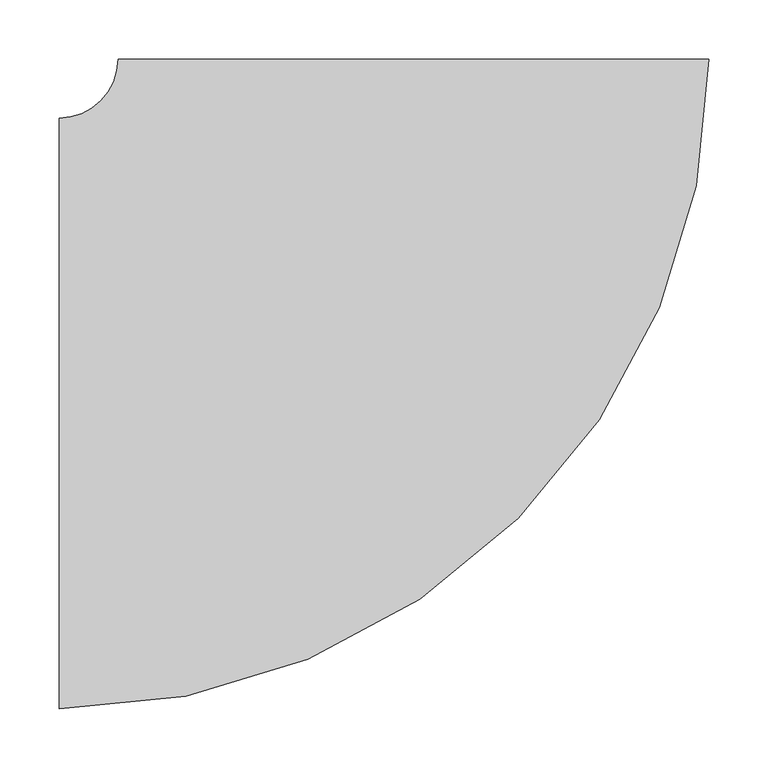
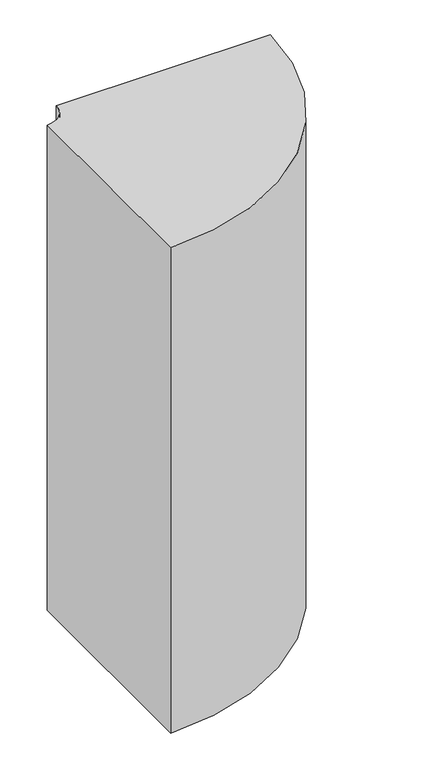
"""IFC4 building model written with IfcOpenShell, lengths in millimetres: duct fitting geometry, ADSK_ОтводВоздуховодов_Прямоугольный1 : Стандарт 2."""

import ifcopenshell
import ifcopenshell.guid

model = None  # the IFC model being written
_history = None  # IfcOwnerHistory: only IFC2X3 demands one
_inside = {}  # id of a spatial element -> (the spatial element, [elements in it])
_under = {}  # id of a project, library or spatial element -> (it, [spatial elements below it])
_declared = {}  # id of a project -> (the project, [libraries it declares])
_typed = {}  # id of a type object -> (the type object, [elements of that type])
_made_of = {}  # id of a material, layer set ... -> (it, [elements and type objects made of it])


def new_model(schema):
    """Start an empty IFC model of exactly this schema.

    Asked for "IFC4X3", IfcOpenShell would pick the latest addendum, in which some entities
    have other attributes; the version numbers below select the first issue.
    IFC2X3 requires an IfcOwnerHistory on every rooted entity: one is made here for all.
    """
    global model, _history
    if schema == "IFC4X3":
        model = ifcopenshell.file(schema_version=(4, 3, 0, 0))
    else:
        model = ifcopenshell.file(schema=schema)
    _inside.clear()
    _under.clear()
    _declared.clear()
    _typed.clear()
    _made_of.clear()
    _history = None
    if model.schema == "IFC2X3":
        org = make("IfcOrganization", Name="unknown")
        user = make(
            "IfcPersonAndOrganization",
            ThePerson=make("IfcPerson", FamilyName="unknown"),
            TheOrganization=org,
        )
        app = make(
            "IfcApplication",
            ApplicationDeveloper=org,
            Version="unknown",
            ApplicationFullName="unknown",
            ApplicationIdentifier="unknown",
        )
        _history = make(
            "IfcOwnerHistory",
            OwningUser=user,
            OwningApplication=app,
            ChangeAction="ADDED",
            CreationDate=0,
        )
    return model


def make(cls, **values):
    """One entity of the class cls with the attributes given. An attribute that is None is left unset."""
    return model.create_entity(
        cls, **{name: value for name, value in values.items() if value is not None}
    )


def rooted(cls, **values):
    """An entity with a GlobalId (a new one), such as an element, a storey or a relation."""
    return make(cls, GlobalId=ifcopenshell.guid.new(), OwnerHistory=_history, **values)


def si_unit(unit_type, name, prefix=None):
    """IfcSIUnit, for example si_unit("LENGTHUNIT", "METRE", prefix="MILLI")."""
    return make("IfcSIUnit", UnitType=unit_type, Prefix=prefix, Name=name)


def assignment(units):
    """IfcUnitAssignment: the units of a project."""
    return None if units is None else make("IfcUnitAssignment", Units=units)


def point(xyz):
    """IfcCartesianPoint."""
    return None if xyz is None else make("IfcCartesianPoint", Coordinates=xyz)


def direction(xyz):
    """IfcDirection."""
    return None if xyz is None else make("IfcDirection", DirectionRatios=xyz)


def frame(location, z_axis=None, x_axis=None):
    """IfcAxis2Placement3D, a coordinate frame: its origin and axes. An axis left out is left unset."""
    return make(
        "IfcAxis2Placement3D",
        Location=point(location),
        Axis=direction(z_axis),
        RefDirection=direction(x_axis),
    )


def frame_2d(location, x_axis=None):
    """IfcAxis2Placement2D, a coordinate frame in the plane: its origin and x axis."""
    return make(
        "IfcAxis2Placement2D", Location=point(location), RefDirection=direction(x_axis)
    )


def origin():
    """The frame at (0, 0, 0) with its axes left unset."""
    return frame((0.0, 0.0, 0.0))


def place(relative_to, where):
    """IfcLocalPlacement: puts the frame where relative to a parent placement (None: the world)."""
    return make(
        "IfcLocalPlacement", PlacementRelTo=relative_to, RelativePlacement=where
    )


def context(
    kind, dimensions, precision=None, world=None, true_north=None, identifier=None
):
    """IfcGeometricRepresentationContext, for example the 3D "Model" context."""
    return make(
        "IfcGeometricRepresentationContext",
        ContextIdentifier=identifier,
        ContextType=kind,
        CoordinateSpaceDimension=dimensions,
        Precision=precision,
        WorldCoordinateSystem=world,
        TrueNorth=true_north,
    )


def project(units=None, contexts=None):
    """IfcProject with its units and contexts."""
    return rooted(
        "IfcProject",
        Name="project",
        RepresentationContexts=contexts,
        UnitsInContext=assignment(units),
    )


def spatial(cls, under=None, at=None, **own):
    """A site, building, storey or space (cls), placed at a placement, below another one or the project."""
    s = rooted(cls, ObjectPlacement=at, **own)
    if under is not None:
        _under.setdefault(under.id(), (under, []))[1].append(s)
    return s


def polyline(points):
    """IfcPolyline through the points."""
    return make("IfcPolyline", Points=[point(p) for p in points])


def circle_curve(where, radius):
    """IfcCircle in the frame where."""
    return make("IfcCircle", Position=where, Radius=radius)


def trimmed(basis, trim1, trim2, sense, master):
    """IfcTrimmedCurve: the piece of a basis curve between two trims."""
    return make(
        "IfcTrimmedCurve",
        BasisCurve=basis,
        Trim1=trim1,
        Trim2=trim2,
        SenseAgreement=sense,
        MasterRepresentation=master,
    )


def segment(curve, same_sense, transition):
    """IfcCompositeCurveSegment."""
    return make(
        "IfcCompositeCurveSegment",
        Transition=transition,
        SameSense=same_sense,
        ParentCurve=curve,
    )


def composite_curve(segments, self_intersect=None):
    """IfcCompositeCurve: segments joined end to end."""
    return make("IfcCompositeCurve", Segments=segments, SelfIntersect=self_intersect)


def outline(outer, holes=None, kind="AREA"):
    """IfcArbitraryClosedProfileDef: a profile drawn as a closed curve; with holes, ...WithVoids."""
    if holes is None:
        return make("IfcArbitraryClosedProfileDef", ProfileType=kind, OuterCurve=outer)
    return make(
        "IfcArbitraryProfileDefWithVoids",
        ProfileType=kind,
        OuterCurve=outer,
        InnerCurves=holes,
    )


def extrude(swept, where, along, depth):
    """IfcExtrudedAreaSolid: the profile swept, set in the frame where, extruded along a direction by depth."""
    return make(
        "IfcExtrudedAreaSolid",
        SweptArea=swept,
        Position=where,
        ExtrudedDirection=direction(along),
        Depth=depth,
    )


def shape(context_of_items, identifier, shape_type, items):
    """IfcShapeRepresentation: the items that make up one representation, for example the "Body"."""
    return make(
        "IfcShapeRepresentation",
        ContextOfItems=context_of_items,
        RepresentationIdentifier=identifier,
        RepresentationType=shape_type,
        Items=items,
    )


def source(mapping_origin, context_of_items, identifier, shape_type, items):
    """IfcRepresentationMap: a shape defined once, which mapped items show again and again."""
    return make(
        "IfcRepresentationMap",
        MappingOrigin=mapping_origin,
        MappedRepresentation=shape(context_of_items, identifier, shape_type, items),
    )


def transform(
    local_origin,
    x_axis=None,
    y_axis=None,
    z_axis=None,
    scale=None,
    scale2=None,
    scale3=None,
    uniform=True,
):
    """IfcCartesianTransformationOperator3D, or its non-uniform kind. x_axis, y_axis, z_axis: its Axis1, 2, 3."""
    if uniform:
        return make(
            "IfcCartesianTransformationOperator3D",
            Axis1=direction(x_axis),
            Axis2=direction(y_axis),
            LocalOrigin=point(local_origin),
            Scale=scale,
            Axis3=direction(z_axis),
        )
    return make(
        "IfcCartesianTransformationOperator3DnonUniform",
        Axis1=direction(x_axis),
        Axis2=direction(y_axis),
        LocalOrigin=point(local_origin),
        Scale=scale,
        Axis3=direction(z_axis),
        Scale2=scale2,
        Scale3=scale3,
    )


def mapped(mapping_source, mapping_target):
    """IfcMappedItem: shows the shape of a source again, moved by a transform."""
    return make(
        "IfcMappedItem", MappingSource=mapping_source, MappingTarget=mapping_target
    )


def made_of(thing, what):
    """Note that an element or type object is made of a material, layer set ...; save() writes the relation."""
    if what is not None:
        _made_of.setdefault(what.id(), (what, []))[1].append(thing)
    return thing


def element(
    cls,
    number,
    at=None,
    inside=None,
    cuts=None,
    type_object=None,
    material=None,
    context=None,
    identifier="Body",
    shape_type=None,
    held_by="IfcProductDefinitionShape",
    body=None,
    shapes=None,
    **own,
):
    """One element of the class cls, such as IfcWall. Its Tag is "e" and its number.

    at: its placement. inside: the storey or other place that contains it. cuts: it is an
    opening in that element (IfcRelVoidsElement). A single representation is given by context,
    identifier, shape_type and body (its items); several are given by shapes. held_by: the class
    of the entity that holds the representations. save() writes the other relations.
    """
    e = rooted(cls, Tag="e%d" % number, ObjectPlacement=at, **own)
    if body is not None:
        shapes = [shape(context, identifier, shape_type, body)]
    if shapes is not None:
        e.Representation = make(held_by, Representations=shapes)
    if inside is not None:
        _inside.setdefault(inside.id(), (inside, []))[1].append(e)
    if cuts is not None:
        rooted(
            "IfcRelVoidsElement", RelatingBuildingElement=cuts, RelatedOpeningElement=e
        )
    if type_object is not None:
        _typed.setdefault(type_object.id(), (type_object, []))[1].append(e)
    return made_of(e, material)


def aggregate(whole, parts):
    """IfcRelAggregates: a whole, such as a stair, and the parts it consists of."""
    return rooted("IfcRelAggregates", RelatingObject=whole, RelatedObjects=parts)


def save(model, path):
    """Write the relations noted so far, then the file.

    IfcRelAggregates (storeys below a building ...), IfcRelContainedInSpatialStructure (elements
    in a storey), IfcRelDefinesByType, IfcRelAssociatesMaterial and IfcRelDeclares: one each for
    every whole, place, type object, material and project.
    """
    for whole, parts in _under.values():
        aggregate(whole, parts)
    for where, things in _inside.values():
        rooted(
            "IfcRelContainedInSpatialStructure",
            RelatedElements=things,
            RelatingStructure=where,
        )
    for kind, things in _typed.values():
        rooted("IfcRelDefinesByType", RelatedObjects=things, RelatingType=kind)
    for what, things in _made_of.values():
        rooted("IfcRelAssociatesMaterial", RelatedObjects=things, RelatingMaterial=what)
    for by, libraries in _declared.values():
        rooted("IfcRelDeclares", RelatingContext=by, RelatedDefinitions=libraries)
    model.write(path)


def duct_fitting_0ad4c2ae(model_context):
    return source(origin(), model_context, "Body", "SweptSolid", [
        extrude(outline(composite_curve([segment(trimmed(circle_curve(frame_2d((-300.0, 300.0)), 550.0), [point((250.0, 300.0))], [point((-300.0, -250.0))], False, "CARTESIAN"), True, "CONTINUOUS"), segment(polyline([(-300.0, -250.0), (-300.0, 250.0)]), True, "CONTINUOUS"), segment(trimmed(circle_curve(frame_2d((-300.0, 300.0)), 50.0), [point((-300.0, 250.0))], [point((-250.0, 300.0))], True, "CARTESIAN"), True, "CONTINUOUS"), segment(polyline([(-250.0, 300.0), (250.0, 300.0)]), True, "CONTINUOUS")], self_intersect=False)), frame((0.0, 0.0, -600.0), z_axis=(0.0, 0.0, 1.0), x_axis=(1.0, 0.0, 0.0)), (0.0, 0.0, 1.0), 1200.0),
    ])


if __name__ == "__main__":
    model = new_model("IFC4")
    model_context = context("Model", 3, world=origin())
    ifc_project = project(units=[si_unit("LENGTHUNIT", "METRE", prefix="MILLI")], contexts=[model_context])
    site = spatial("IfcSite", under=ifc_project)
    building = spatial("IfcBuilding", under=site)
    placement = place(None, origin())
    duct_fitting_shape = duct_fitting_0ad4c2ae(model_context)
    element("IfcDuctFitting", 1, ObjectType="ADSK_ОтводВоздуховодов_Прямоугольный1 : Стандарт 2", at=placement, inside=building, context=model_context, shape_type="MappedRepresentation", body=[
        mapped(duct_fitting_shape, transform((0.0, 0.0, 0.0), x_axis=(1.0, 0.0, 0.0), y_axis=(0.0, 1.0, 0.0), z_axis=(0.0, 0.0, 1.0))),
    ])
    save(model, "model.ifc")
